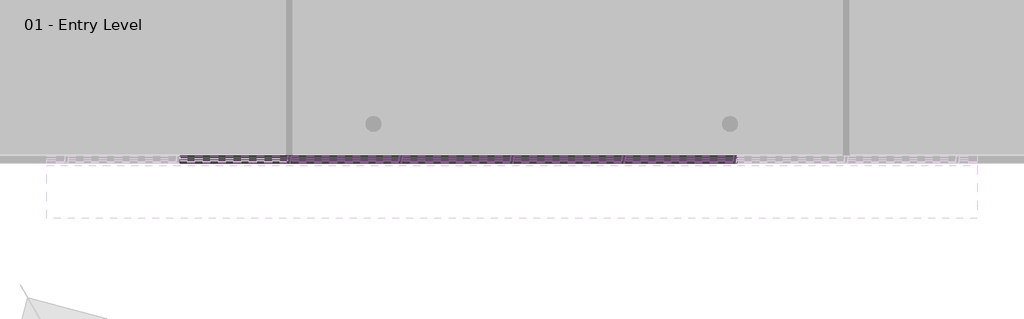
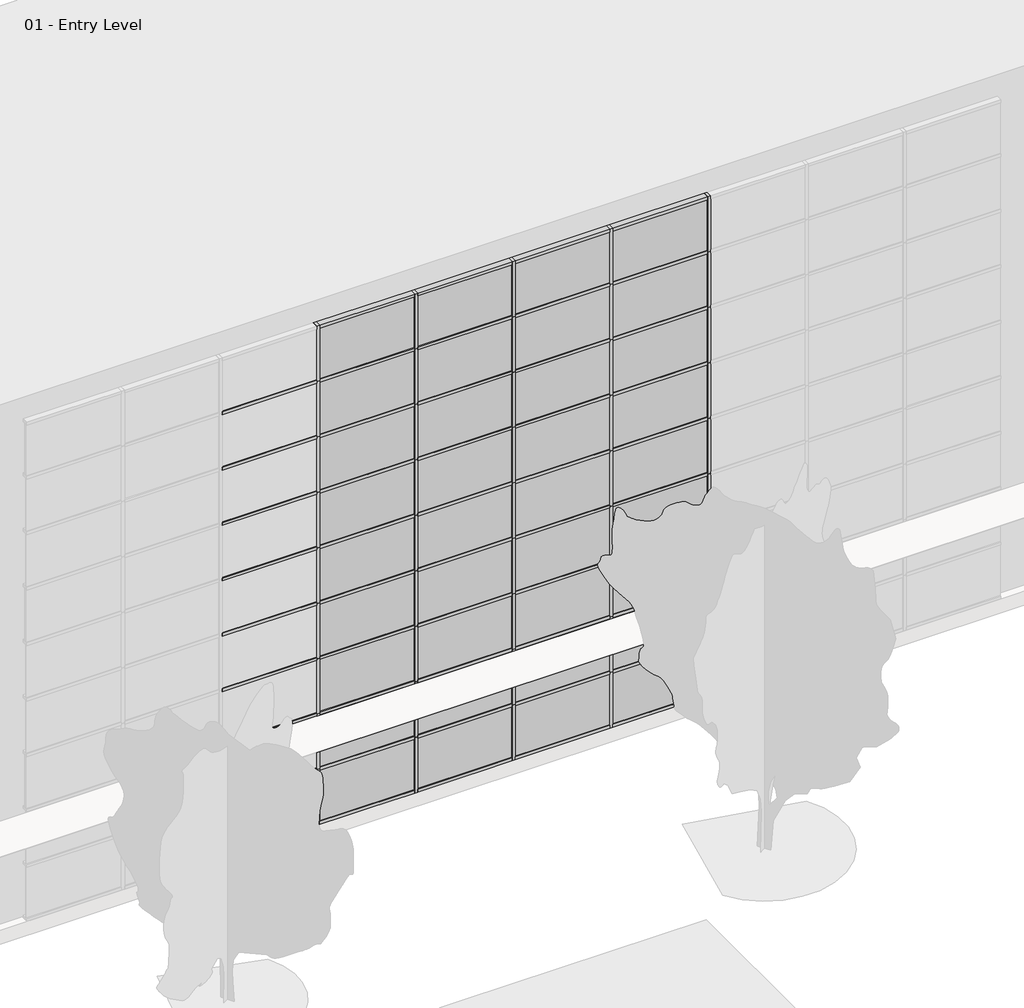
# One storey, part 4 of 34: 94 members, 38 plates.
"""IFC4 building model written with IfcOpenShell, lengths in millimetres."""

from ifc_helpers import new_model, si_unit, origin, place, context, project, spatial, transform, mapped, element, save
from components import member_2b49869a, member_391b434c, member_9e90ae50, system_panel_glazed_1b9d6098, system_panel_glazed_70da479d, system_panel_solid_b376696c, system_panel_solid_77e8b053

model = new_model("IFC4")

# Units and contexts
model_context = context("Model", 3, world=origin())
ifc_project = project(units=[si_unit("LENGTHUNIT", "METRE", prefix="MILLI")], contexts=[model_context])

# Site, building, storey
site = spatial("IfcSite", under=ifc_project)
building = spatial("IfcBuilding", under=site)
storey = spatial("IfcBuildingStorey", under=building, Name="01 - Entry Level", Elevation=0.0)

# Members
placement = place(None, origin())
member_shape = member_2b49869a(model_context)
element("IfcMember", 1, ObjectType="Rectangular Mullion : 2.5\" x 5\" rectangular", at=placement, inside=storey, context=model_context, shape_type="MappedRepresentation", body=[
    mapped(member_shape, transform((40755.2207476, -47.7, 9753.6), x_axis=(1.0, 0.0, 0.0), y_axis=(0.0, -1.0, 0.0), z_axis=(0.0, 0.0, -1.0))),
])
element("IfcMember", 2, ObjectType="Rectangular Mullion : 2.5\" x 5\" rectangular", at=placement, inside=storey, context=model_context, shape_type="MappedRepresentation", body=[
    mapped(member_shape, transform((42787.2207476, -47.7, 9753.6), x_axis=(1.0, 0.0, 0.0), y_axis=(0.0, -1.0, 0.0), z_axis=(0.0, 0.0, -1.0))),
])
element("IfcMember", 3, ObjectType="Rectangular Mullion : 2.5\" x 5\" rectangular", at=placement, inside=storey, context=model_context, shape_type="MappedRepresentation", body=[
    mapped(member_shape, transform((44819.2207476, -47.7, 9753.6), x_axis=(1.0, 0.0, 0.0), y_axis=(0.0, -1.0, 0.0), z_axis=(0.0, 0.0, -1.0))),
])
element("IfcMember", 4, ObjectType="Rectangular Mullion : 2.5\" x 5\" rectangular", at=placement, inside=storey, context=model_context, shape_type="MappedRepresentation", body=[
    mapped(member_shape, transform((46851.2207476, -47.7, 9753.6), x_axis=(1.0, 0.0, 0.0), y_axis=(0.0, -1.0, 0.0), z_axis=(0.0, 0.0, -1.0))),
])
element("IfcMember", 5, ObjectType="Rectangular Mullion : 2.5\" x 5\" rectangular", at=placement, inside=storey, context=model_context, shape_type="MappedRepresentation", body=[
    mapped(member_shape, transform((48883.2207476, -47.7, 9753.6), x_axis=(1.0, 0.0, 0.0), y_axis=(0.0, -1.0, 0.0), z_axis=(0.0, 0.0, -1.0))),
])
member_2_shape = member_391b434c(model_context)
element("IfcMember", 6, ObjectType="Rectangular Mullion : 2.5\" x 5\" rectangular", at=placement, inside=storey, context=model_context, shape_type="MappedRepresentation", body=[
    mapped(member_2_shape, transform((42755.4707476, -47.7, 10972.8), x_axis=(0.0, 0.0, 1.0), y_axis=(0.0, -1.0, 0.0), z_axis=(1.0, 0.0, 0.0))),
])
element("IfcMember", 7, ObjectType="Rectangular Mullion : 2.5\" x 5\" rectangular", at=placement, inside=storey, context=model_context, shape_type="MappedRepresentation", body=[
    mapped(member_2_shape, transform((44787.4707476, -47.7, 10972.8), x_axis=(0.0, 0.0, 1.0), y_axis=(0.0, -1.0, 0.0), z_axis=(1.0, 0.0, 0.0))),
])
element("IfcMember", 8, ObjectType="Rectangular Mullion : 2.5\" x 5\" rectangular", at=placement, inside=storey, context=model_context, shape_type="MappedRepresentation", body=[
    mapped(member_2_shape, transform((46819.4707476, -47.7, 10972.8), x_axis=(0.0, 0.0, 1.0), y_axis=(0.0, -1.0, 0.0), z_axis=(1.0, 0.0, 0.0))),
])
element("IfcMember", 9, ObjectType="Rectangular Mullion : 2.5\" x 5\" rectangular", at=placement, inside=storey, context=model_context, shape_type="MappedRepresentation", body=[
    mapped(member_2_shape, transform((48851.4707476, -47.7, 10972.8), x_axis=(0.0, 0.0, 1.0), y_axis=(0.0, -1.0, 0.0), z_axis=(1.0, 0.0, 0.0))),
])
element("IfcMember", 10, ObjectType="Rectangular Mullion : 2.5\" x 5\" rectangular", at=placement, inside=storey, context=model_context, shape_type="MappedRepresentation", body=[
    mapped(member_2_shape, transform((40786.9707476, -47.7, 0.0), x_axis=(0.0, 0.0, -1.0), y_axis=(0.0, -1.0, 0.0), z_axis=(-1.0, 0.0, 0.0))),
])
element("IfcMember", 11, ObjectType="Rectangular Mullion : 2.5\" x 5\" rectangular", at=placement, inside=storey, context=model_context, shape_type="MappedRepresentation", body=[
    mapped(member_2_shape, transform((42818.9707476, -47.7, 0.0), x_axis=(0.0, 0.0, -1.0), y_axis=(0.0, -1.0, 0.0), z_axis=(-1.0, 0.0, 0.0))),
])
element("IfcMember", 12, ObjectType="Rectangular Mullion : 2.5\" x 5\" rectangular", at=placement, inside=storey, context=model_context, shape_type="MappedRepresentation", body=[
    mapped(member_2_shape, transform((44850.9707476, -47.7, 0.0), x_axis=(0.0, 0.0, -1.0), y_axis=(0.0, -1.0, 0.0), z_axis=(-1.0, 0.0, 0.0))),
])
element("IfcMember", 13, ObjectType="Rectangular Mullion : 2.5\" x 5\" rectangular", at=placement, inside=storey, context=model_context, shape_type="MappedRepresentation", body=[
    mapped(member_2_shape, transform((46882.9707476, -47.7, 0.0), x_axis=(0.0, 0.0, -1.0), y_axis=(0.0, -1.0, 0.0), z_axis=(-1.0, 0.0, 0.0))),
])
element("IfcMember", 14, ObjectType="Rectangular Mullion : 2.5\" x 5\" rectangular", at=placement, inside=storey, context=model_context, shape_type="MappedRepresentation", body=[
    mapped(member_2_shape, transform((48914.9707476, -47.7, 0.0), x_axis=(0.0, 0.0, -1.0), y_axis=(0.0, -1.0, 0.0), z_axis=(-1.0, 0.0, 0.0))),
])
member_3_shape = member_9e90ae50(model_context)
element("IfcMember", 15, ObjectType="Rectangular Mullion : 2.5\" x 5\" rectangular", at=placement, inside=storey, context=model_context, shape_type="MappedRepresentation", body=[
    mapped(member_3_shape, transform((40723.4707476, -47.7, 1219.2), x_axis=(0.0, 0.0, 1.0), y_axis=(0.0, -1.0, 0.0), z_axis=(1.0, 0.0, 0.0))),
])
element("IfcMember", 16, ObjectType="Rectangular Mullion : 2.5\" x 5\" rectangular", at=placement, inside=storey, context=model_context, shape_type="MappedRepresentation", body=[
    mapped(member_3_shape, transform((42755.4707476, -47.7, 1219.2), x_axis=(0.0, 0.0, 1.0), y_axis=(0.0, -1.0, 0.0), z_axis=(1.0, 0.0, 0.0))),
])
element("IfcMember", 17, ObjectType="Rectangular Mullion : 2.5\" x 5\" rectangular", at=placement, inside=storey, context=model_context, shape_type="MappedRepresentation", body=[
    mapped(member_3_shape, transform((44787.4707476, -47.7, 1219.2), x_axis=(0.0, 0.0, 1.0), y_axis=(0.0, -1.0, 0.0), z_axis=(1.0, 0.0, 0.0))),
])
element("IfcMember", 18, ObjectType="Rectangular Mullion : 2.5\" x 5\" rectangular", at=placement, inside=storey, context=model_context, shape_type="MappedRepresentation", body=[
    mapped(member_3_shape, transform((46819.4707476, -47.7, 1219.2), x_axis=(0.0, 0.0, 1.0), y_axis=(0.0, -1.0, 0.0), z_axis=(1.0, 0.0, 0.0))),
])
element("IfcMember", 19, ObjectType="Rectangular Mullion : 2.5\" x 5\" rectangular", at=placement, inside=storey, context=model_context, shape_type="MappedRepresentation", body=[
    mapped(member_3_shape, transform((48851.4707476, -47.7, 1219.2), x_axis=(0.0, 0.0, 1.0), y_axis=(0.0, -1.0, 0.0), z_axis=(1.0, 0.0, 0.0))),
])
element("IfcMember", 20, ObjectType="Rectangular Mullion : 2.5\" x 5\" rectangular", at=placement, inside=storey, context=model_context, shape_type="MappedRepresentation", body=[
    mapped(member_3_shape, transform((40723.4707476, -47.7, 2438.4), x_axis=(0.0, 0.0, 1.0), y_axis=(0.0, -1.0, 0.0), z_axis=(1.0, 0.0, 0.0))),
])
element("IfcMember", 21, ObjectType="Rectangular Mullion : 2.5\" x 5\" rectangular", at=placement, inside=storey, context=model_context, shape_type="MappedRepresentation", body=[
    mapped(member_3_shape, transform((42755.4707476, -47.7, 2438.4), x_axis=(0.0, 0.0, 1.0), y_axis=(0.0, -1.0, 0.0), z_axis=(1.0, 0.0, 0.0))),
])
element("IfcMember", 22, ObjectType="Rectangular Mullion : 2.5\" x 5\" rectangular", at=placement, inside=storey, context=model_context, shape_type="MappedRepresentation", body=[
    mapped(member_3_shape, transform((44787.4707476, -47.7, 2438.4), x_axis=(0.0, 0.0, 1.0), y_axis=(0.0, -1.0, 0.0), z_axis=(1.0, 0.0, 0.0))),
])
element("IfcMember", 23, ObjectType="Rectangular Mullion : 2.5\" x 5\" rectangular", at=placement, inside=storey, context=model_context, shape_type="MappedRepresentation", body=[
    mapped(member_3_shape, transform((46819.4707476, -47.7, 2438.4), x_axis=(0.0, 0.0, 1.0), y_axis=(0.0, -1.0, 0.0), z_axis=(1.0, 0.0, 0.0))),
])
element("IfcMember", 24, ObjectType="Rectangular Mullion : 2.5\" x 5\" rectangular", at=placement, inside=storey, context=model_context, shape_type="MappedRepresentation", body=[
    mapped(member_3_shape, transform((48851.4707476, -47.7, 2438.4), x_axis=(0.0, 0.0, 1.0), y_axis=(0.0, -1.0, 0.0), z_axis=(1.0, 0.0, 0.0))),
])
element("IfcMember", 25, ObjectType="Rectangular Mullion : 2.5\" x 5\" rectangular", at=placement, inside=storey, context=model_context, shape_type="MappedRepresentation", body=[
    mapped(member_3_shape, transform((40723.4707476, -47.7, 3657.6), x_axis=(0.0, 0.0, 1.0), y_axis=(0.0, -1.0, 0.0), z_axis=(1.0, 0.0, 0.0))),
])
element("IfcMember", 26, ObjectType="Rectangular Mullion : 2.5\" x 5\" rectangular", at=placement, inside=storey, context=model_context, shape_type="MappedRepresentation", body=[
    mapped(member_3_shape, transform((42755.4707476, -47.7, 3657.6), x_axis=(0.0, 0.0, 1.0), y_axis=(0.0, -1.0, 0.0), z_axis=(1.0, 0.0, 0.0))),
])
element("IfcMember", 27, ObjectType="Rectangular Mullion : 2.5\" x 5\" rectangular", at=placement, inside=storey, context=model_context, shape_type="MappedRepresentation", body=[
    mapped(member_3_shape, transform((44787.4707476, -47.7, 3657.6), x_axis=(0.0, 0.0, 1.0), y_axis=(0.0, -1.0, 0.0), z_axis=(1.0, 0.0, 0.0))),
])
element("IfcMember", 28, ObjectType="Rectangular Mullion : 2.5\" x 5\" rectangular", at=placement, inside=storey, context=model_context, shape_type="MappedRepresentation", body=[
    mapped(member_3_shape, transform((46819.4707476, -47.7, 3657.6), x_axis=(0.0, 0.0, 1.0), y_axis=(0.0, -1.0, 0.0), z_axis=(1.0, 0.0, 0.0))),
])
element("IfcMember", 29, ObjectType="Rectangular Mullion : 2.5\" x 5\" rectangular", at=placement, inside=storey, context=model_context, shape_type="MappedRepresentation", body=[
    mapped(member_3_shape, transform((48851.4707476, -47.7, 3657.6), x_axis=(0.0, 0.0, 1.0), y_axis=(0.0, -1.0, 0.0), z_axis=(1.0, 0.0, 0.0))),
])
element("IfcMember", 30, ObjectType="Rectangular Mullion : 2.5\" x 5\" rectangular", at=placement, inside=storey, context=model_context, shape_type="MappedRepresentation", body=[
    mapped(member_3_shape, transform((40723.4707476, -47.7, 4876.8), x_axis=(0.0, 0.0, 1.0), y_axis=(0.0, -1.0, 0.0), z_axis=(1.0, 0.0, 0.0))),
])
element("IfcMember", 31, ObjectType="Rectangular Mullion : 2.5\" x 5\" rectangular", at=placement, inside=storey, context=model_context, shape_type="MappedRepresentation", body=[
    mapped(member_3_shape, transform((42755.4707476, -47.7, 4876.8), x_axis=(0.0, 0.0, 1.0), y_axis=(0.0, -1.0, 0.0), z_axis=(1.0, 0.0, 0.0))),
])
element("IfcMember", 32, ObjectType="Rectangular Mullion : 2.5\" x 5\" rectangular", at=placement, inside=storey, context=model_context, shape_type="MappedRepresentation", body=[
    mapped(member_3_shape, transform((44787.4707476, -47.7, 4876.8), x_axis=(0.0, 0.0, 1.0), y_axis=(0.0, -1.0, 0.0), z_axis=(1.0, 0.0, 0.0))),
])
element("IfcMember", 33, ObjectType="Rectangular Mullion : 2.5\" x 5\" rectangular", at=placement, inside=storey, context=model_context, shape_type="MappedRepresentation", body=[
    mapped(member_3_shape, transform((46819.4707476, -47.7, 4876.8), x_axis=(0.0, 0.0, 1.0), y_axis=(0.0, -1.0, 0.0), z_axis=(1.0, 0.0, 0.0))),
])
element("IfcMember", 34, ObjectType="Rectangular Mullion : 2.5\" x 5\" rectangular", at=placement, inside=storey, context=model_context, shape_type="MappedRepresentation", body=[
    mapped(member_3_shape, transform((48851.4707476, -47.7, 4876.8), x_axis=(0.0, 0.0, 1.0), y_axis=(0.0, -1.0, 0.0), z_axis=(1.0, 0.0, 0.0))),
])
element("IfcMember", 35, ObjectType="Rectangular Mullion : 2.5\" x 5\" rectangular", at=placement, inside=storey, context=model_context, shape_type="MappedRepresentation", body=[
    mapped(member_3_shape, transform((40723.4707476, -47.7, 6096.0), x_axis=(0.0, 0.0, 1.0), y_axis=(0.0, -1.0, 0.0), z_axis=(1.0, 0.0, 0.0))),
])
element("IfcMember", 36, ObjectType="Rectangular Mullion : 2.5\" x 5\" rectangular", at=placement, inside=storey, context=model_context, shape_type="MappedRepresentation", body=[
    mapped(member_3_shape, transform((42755.4707476, -47.7, 6096.0), x_axis=(0.0, 0.0, 1.0), y_axis=(0.0, -1.0, 0.0), z_axis=(1.0, 0.0, 0.0))),
])
element("IfcMember", 37, ObjectType="Rectangular Mullion : 2.5\" x 5\" rectangular", at=placement, inside=storey, context=model_context, shape_type="MappedRepresentation", body=[
    mapped(member_3_shape, transform((44787.4707476, -47.7, 6096.0), x_axis=(0.0, 0.0, 1.0), y_axis=(0.0, -1.0, 0.0), z_axis=(1.0, 0.0, 0.0))),
])
element("IfcMember", 38, ObjectType="Rectangular Mullion : 2.5\" x 5\" rectangular", at=placement, inside=storey, context=model_context, shape_type="MappedRepresentation", body=[
    mapped(member_3_shape, transform((46819.4707476, -47.7, 6096.0), x_axis=(0.0, 0.0, 1.0), y_axis=(0.0, -1.0, 0.0), z_axis=(1.0, 0.0, 0.0))),
])
element("IfcMember", 39, ObjectType="Rectangular Mullion : 2.5\" x 5\" rectangular", at=placement, inside=storey, context=model_context, shape_type="MappedRepresentation", body=[
    mapped(member_3_shape, transform((48851.4707476, -47.7, 6096.0), x_axis=(0.0, 0.0, 1.0), y_axis=(0.0, -1.0, 0.0), z_axis=(1.0, 0.0, 0.0))),
])
element("IfcMember", 40, ObjectType="Rectangular Mullion : 2.5\" x 5\" rectangular", at=placement, inside=storey, context=model_context, shape_type="MappedRepresentation", body=[
    mapped(member_3_shape, transform((40723.4707476, -47.7, 7315.2), x_axis=(0.0, 0.0, 1.0), y_axis=(0.0, -1.0, 0.0), z_axis=(1.0, 0.0, 0.0))),
])
element("IfcMember", 41, ObjectType="Rectangular Mullion : 2.5\" x 5\" rectangular", at=placement, inside=storey, context=model_context, shape_type="MappedRepresentation", body=[
    mapped(member_3_shape, transform((42755.4707476, -47.7, 7315.2), x_axis=(0.0, 0.0, 1.0), y_axis=(0.0, -1.0, 0.0), z_axis=(1.0, 0.0, 0.0))),
])
element("IfcMember", 42, ObjectType="Rectangular Mullion : 2.5\" x 5\" rectangular", at=placement, inside=storey, context=model_context, shape_type="MappedRepresentation", body=[
    mapped(member_3_shape, transform((44787.4707476, -47.7, 7315.2), x_axis=(0.0, 0.0, 1.0), y_axis=(0.0, -1.0, 0.0), z_axis=(1.0, 0.0, 0.0))),
])
element("IfcMember", 43, ObjectType="Rectangular Mullion : 2.5\" x 5\" rectangular", at=placement, inside=storey, context=model_context, shape_type="MappedRepresentation", body=[
    mapped(member_3_shape, transform((46819.4707476, -47.7, 7315.2), x_axis=(0.0, 0.0, 1.0), y_axis=(0.0, -1.0, 0.0), z_axis=(1.0, 0.0, 0.0))),
])
element("IfcMember", 44, ObjectType="Rectangular Mullion : 2.5\" x 5\" rectangular", at=placement, inside=storey, context=model_context, shape_type="MappedRepresentation", body=[
    mapped(member_3_shape, transform((48851.4707476, -47.7, 7315.2), x_axis=(0.0, 0.0, 1.0), y_axis=(0.0, -1.0, 0.0), z_axis=(1.0, 0.0, 0.0))),
])
element("IfcMember", 45, ObjectType="Rectangular Mullion : 2.5\" x 5\" rectangular", at=placement, inside=storey, context=model_context, shape_type="MappedRepresentation", body=[
    mapped(member_3_shape, transform((40723.4707476, -47.7, 8534.4), x_axis=(0.0, 0.0, 1.0), y_axis=(0.0, -1.0, 0.0), z_axis=(1.0, 0.0, 0.0))),
])
element("IfcMember", 46, ObjectType="Rectangular Mullion : 2.5\" x 5\" rectangular", at=placement, inside=storey, context=model_context, shape_type="MappedRepresentation", body=[
    mapped(member_3_shape, transform((42755.4707476, -47.7, 8534.4), x_axis=(0.0, 0.0, 1.0), y_axis=(0.0, -1.0, 0.0), z_axis=(1.0, 0.0, 0.0))),
])
element("IfcMember", 47, ObjectType="Rectangular Mullion : 2.5\" x 5\" rectangular", at=placement, inside=storey, context=model_context, shape_type="MappedRepresentation", body=[
    mapped(member_3_shape, transform((44787.4707476, -47.7, 8534.4), x_axis=(0.0, 0.0, 1.0), y_axis=(0.0, -1.0, 0.0), z_axis=(1.0, 0.0, 0.0))),
])
element("IfcMember", 48, ObjectType="Rectangular Mullion : 2.5\" x 5\" rectangular", at=placement, inside=storey, context=model_context, shape_type="MappedRepresentation", body=[
    mapped(member_3_shape, transform((46819.4707476, -47.7, 8534.4), x_axis=(0.0, 0.0, 1.0), y_axis=(0.0, -1.0, 0.0), z_axis=(1.0, 0.0, 0.0))),
])
element("IfcMember", 49, ObjectType="Rectangular Mullion : 2.5\" x 5\" rectangular", at=placement, inside=storey, context=model_context, shape_type="MappedRepresentation", body=[
    mapped(member_3_shape, transform((48851.4707476, -47.7, 8534.4), x_axis=(0.0, 0.0, 1.0), y_axis=(0.0, -1.0, 0.0), z_axis=(1.0, 0.0, 0.0))),
])
element("IfcMember", 50, ObjectType="Rectangular Mullion : 2.5\" x 5\" rectangular", at=placement, inside=storey, context=model_context, shape_type="MappedRepresentation", body=[
    mapped(member_3_shape, transform((40723.4707476, -47.7, 9753.6), x_axis=(0.0, 0.0, 1.0), y_axis=(0.0, -1.0, 0.0), z_axis=(1.0, 0.0, 0.0))),
])
element("IfcMember", 51, ObjectType="Rectangular Mullion : 2.5\" x 5\" rectangular", at=placement, inside=storey, context=model_context, shape_type="MappedRepresentation", body=[
    mapped(member_3_shape, transform((42755.4707476, -47.7, 9753.6), x_axis=(0.0, 0.0, 1.0), y_axis=(0.0, -1.0, 0.0), z_axis=(1.0, 0.0, 0.0))),
])
element("IfcMember", 52, ObjectType="Rectangular Mullion : 2.5\" x 5\" rectangular", at=placement, inside=storey, context=model_context, shape_type="MappedRepresentation", body=[
    mapped(member_3_shape, transform((44787.4707476, -47.7, 9753.6), x_axis=(0.0, 0.0, 1.0), y_axis=(0.0, -1.0, 0.0), z_axis=(1.0, 0.0, 0.0))),
])
element("IfcMember", 53, ObjectType="Rectangular Mullion : 2.5\" x 5\" rectangular", at=placement, inside=storey, context=model_context, shape_type="MappedRepresentation", body=[
    mapped(member_3_shape, transform((46819.4707476, -47.7, 9753.6), x_axis=(0.0, 0.0, 1.0), y_axis=(0.0, -1.0, 0.0), z_axis=(1.0, 0.0, 0.0))),
])
element("IfcMember", 54, ObjectType="Rectangular Mullion : 2.5\" x 5\" rectangular", at=placement, inside=storey, context=model_context, shape_type="MappedRepresentation", body=[
    mapped(member_3_shape, transform((48851.4707476, -47.7, 9753.6), x_axis=(0.0, 0.0, 1.0), y_axis=(0.0, -1.0, 0.0), z_axis=(1.0, 0.0, 0.0))),
])
element("IfcMember", 55, ObjectType="Rectangular Mullion : 2.5\" x 5\" rectangular", at=placement, inside=storey, context=model_context, shape_type="MappedRepresentation", body=[
    mapped(member_shape, transform((40755.2207476, -47.7, 0.0), x_axis=(1.0, 0.0, 0.0), y_axis=(0.0, -1.0, 0.0), z_axis=(0.0, 0.0, -1.0))),
])
element("IfcMember", 56, ObjectType="Rectangular Mullion : 2.5\" x 5\" rectangular", at=placement, inside=storey, context=model_context, shape_type="MappedRepresentation", body=[
    mapped(member_shape, transform((42787.2207476, -47.7, 0.0), x_axis=(1.0, 0.0, 0.0), y_axis=(0.0, -1.0, 0.0), z_axis=(0.0, 0.0, -1.0))),
])
element("IfcMember", 57, ObjectType="Rectangular Mullion : 2.5\" x 5\" rectangular", at=placement, inside=storey, context=model_context, shape_type="MappedRepresentation", body=[
    mapped(member_shape, transform((44819.2207476, -47.7, 0.0), x_axis=(1.0, 0.0, 0.0), y_axis=(0.0, -1.0, 0.0), z_axis=(0.0, 0.0, -1.0))),
])
element("IfcMember", 58, ObjectType="Rectangular Mullion : 2.5\" x 5\" rectangular", at=placement, inside=storey, context=model_context, shape_type="MappedRepresentation", body=[
    mapped(member_shape, transform((46851.2207476, -47.7, 0.0), x_axis=(1.0, 0.0, 0.0), y_axis=(0.0, -1.0, 0.0), z_axis=(0.0, 0.0, -1.0))),
])
element("IfcMember", 59, ObjectType="Rectangular Mullion : 2.5\" x 5\" rectangular", at=placement, inside=storey, context=model_context, shape_type="MappedRepresentation", body=[
    mapped(member_shape, transform((48883.2207476, -47.7, 0.0), x_axis=(1.0, 0.0, 0.0), y_axis=(0.0, -1.0, 0.0), z_axis=(0.0, 0.0, -1.0))),
])
element("IfcMember", 60, ObjectType="Rectangular Mullion : 2.5\" x 5\" rectangular", at=placement, inside=storey, context=model_context, shape_type="MappedRepresentation", body=[
    mapped(member_shape, transform((40755.2207476, -47.7, 1219.2), x_axis=(1.0, 0.0, 0.0), y_axis=(0.0, -1.0, 0.0), z_axis=(0.0, 0.0, -1.0))),
])
element("IfcMember", 61, ObjectType="Rectangular Mullion : 2.5\" x 5\" rectangular", at=placement, inside=storey, context=model_context, shape_type="MappedRepresentation", body=[
    mapped(member_shape, transform((42787.2207476, -47.7, 1219.2), x_axis=(1.0, 0.0, 0.0), y_axis=(0.0, -1.0, 0.0), z_axis=(0.0, 0.0, -1.0))),
])
element("IfcMember", 62, ObjectType="Rectangular Mullion : 2.5\" x 5\" rectangular", at=placement, inside=storey, context=model_context, shape_type="MappedRepresentation", body=[
    mapped(member_shape, transform((44819.2207476, -47.7, 1219.2), x_axis=(1.0, 0.0, 0.0), y_axis=(0.0, -1.0, 0.0), z_axis=(0.0, 0.0, -1.0))),
])
element("IfcMember", 63, ObjectType="Rectangular Mullion : 2.5\" x 5\" rectangular", at=placement, inside=storey, context=model_context, shape_type="MappedRepresentation", body=[
    mapped(member_shape, transform((46851.2207476, -47.7, 1219.2), x_axis=(1.0, 0.0, 0.0), y_axis=(0.0, -1.0, 0.0), z_axis=(0.0, 0.0, -1.0))),
])
element("IfcMember", 64, ObjectType="Rectangular Mullion : 2.5\" x 5\" rectangular", at=placement, inside=storey, context=model_context, shape_type="MappedRepresentation", body=[
    mapped(member_shape, transform((48883.2207476, -47.7, 1219.2), x_axis=(1.0, 0.0, 0.0), y_axis=(0.0, -1.0, 0.0), z_axis=(0.0, 0.0, -1.0))),
])
element("IfcMember", 65, ObjectType="Rectangular Mullion : 2.5\" x 5\" rectangular", at=placement, inside=storey, context=model_context, shape_type="MappedRepresentation", body=[
    mapped(member_shape, transform((40755.2207476, -47.7, 2438.4), x_axis=(1.0, 0.0, 0.0), y_axis=(0.0, -1.0, 0.0), z_axis=(0.0, 0.0, -1.0))),
])
element("IfcMember", 66, ObjectType="Rectangular Mullion : 2.5\" x 5\" rectangular", at=placement, inside=storey, context=model_context, shape_type="MappedRepresentation", body=[
    mapped(member_shape, transform((42787.2207476, -47.7, 2438.4), x_axis=(1.0, 0.0, 0.0), y_axis=(0.0, -1.0, 0.0), z_axis=(0.0, 0.0, -1.0))),
])
element("IfcMember", 67, ObjectType="Rectangular Mullion : 2.5\" x 5\" rectangular", at=placement, inside=storey, context=model_context, shape_type="MappedRepresentation", body=[
    mapped(member_shape, transform((44819.2207476, -47.7, 2438.4), x_axis=(1.0, 0.0, 0.0), y_axis=(0.0, -1.0, 0.0), z_axis=(0.0, 0.0, -1.0))),
])
element("IfcMember", 68, ObjectType="Rectangular Mullion : 2.5\" x 5\" rectangular", at=placement, inside=storey, context=model_context, shape_type="MappedRepresentation", body=[
    mapped(member_shape, transform((46851.2207476, -47.7, 2438.4), x_axis=(1.0, 0.0, 0.0), y_axis=(0.0, -1.0, 0.0), z_axis=(0.0, 0.0, -1.0))),
])
element("IfcMember", 69, ObjectType="Rectangular Mullion : 2.5\" x 5\" rectangular", at=placement, inside=storey, context=model_context, shape_type="MappedRepresentation", body=[
    mapped(member_shape, transform((48883.2207476, -47.7, 2438.4), x_axis=(1.0, 0.0, 0.0), y_axis=(0.0, -1.0, 0.0), z_axis=(0.0, 0.0, -1.0))),
])
element("IfcMember", 70, ObjectType="Rectangular Mullion : 2.5\" x 5\" rectangular", at=placement, inside=storey, context=model_context, shape_type="MappedRepresentation", body=[
    mapped(member_shape, transform((40755.2207476, -47.7, 3657.6), x_axis=(1.0, 0.0, 0.0), y_axis=(0.0, -1.0, 0.0), z_axis=(0.0, 0.0, -1.0))),
])
element("IfcMember", 71, ObjectType="Rectangular Mullion : 2.5\" x 5\" rectangular", at=placement, inside=storey, context=model_context, shape_type="MappedRepresentation", body=[
    mapped(member_shape, transform((42787.2207476, -47.7, 3657.6), x_axis=(1.0, 0.0, 0.0), y_axis=(0.0, -1.0, 0.0), z_axis=(0.0, 0.0, -1.0))),
])
element("IfcMember", 72, ObjectType="Rectangular Mullion : 2.5\" x 5\" rectangular", at=placement, inside=storey, context=model_context, shape_type="MappedRepresentation", body=[
    mapped(member_shape, transform((44819.2207476, -47.7, 3657.6), x_axis=(1.0, 0.0, 0.0), y_axis=(0.0, -1.0, 0.0), z_axis=(0.0, 0.0, -1.0))),
])
element("IfcMember", 73, ObjectType="Rectangular Mullion : 2.5\" x 5\" rectangular", at=placement, inside=storey, context=model_context, shape_type="MappedRepresentation", body=[
    mapped(member_shape, transform((46851.2207476, -47.7, 3657.6), x_axis=(1.0, 0.0, 0.0), y_axis=(0.0, -1.0, 0.0), z_axis=(0.0, 0.0, -1.0))),
])
element("IfcMember", 74, ObjectType="Rectangular Mullion : 2.5\" x 5\" rectangular", at=placement, inside=storey, context=model_context, shape_type="MappedRepresentation", body=[
    mapped(member_shape, transform((48883.2207476, -47.7, 3657.6), x_axis=(1.0, 0.0, 0.0), y_axis=(0.0, -1.0, 0.0), z_axis=(0.0, 0.0, -1.0))),
])
element("IfcMember", 75, ObjectType="Rectangular Mullion : 2.5\" x 5\" rectangular", at=placement, inside=storey, context=model_context, shape_type="MappedRepresentation", body=[
    mapped(member_shape, transform((40755.2207476, -47.7, 4876.8), x_axis=(1.0, 0.0, 0.0), y_axis=(0.0, -1.0, 0.0), z_axis=(0.0, 0.0, -1.0))),
])
element("IfcMember", 76, ObjectType="Rectangular Mullion : 2.5\" x 5\" rectangular", at=placement, inside=storey, context=model_context, shape_type="MappedRepresentation", body=[
    mapped(member_shape, transform((42787.2207476, -47.7, 4876.8), x_axis=(1.0, 0.0, 0.0), y_axis=(0.0, -1.0, 0.0), z_axis=(0.0, 0.0, -1.0))),
])
element("IfcMember", 77, ObjectType="Rectangular Mullion : 2.5\" x 5\" rectangular", at=placement, inside=storey, context=model_context, shape_type="MappedRepresentation", body=[
    mapped(member_shape, transform((44819.2207476, -47.7, 4876.8), x_axis=(1.0, 0.0, 0.0), y_axis=(0.0, -1.0, 0.0), z_axis=(0.0, 0.0, -1.0))),
])
element("IfcMember", 78, ObjectType="Rectangular Mullion : 2.5\" x 5\" rectangular", at=placement, inside=storey, context=model_context, shape_type="MappedRepresentation", body=[
    mapped(member_shape, transform((46851.2207476, -47.7, 4876.8), x_axis=(1.0, 0.0, 0.0), y_axis=(0.0, -1.0, 0.0), z_axis=(0.0, 0.0, -1.0))),
])
element("IfcMember", 79, ObjectType="Rectangular Mullion : 2.5\" x 5\" rectangular", at=placement, inside=storey, context=model_context, shape_type="MappedRepresentation", body=[
    mapped(member_shape, transform((48883.2207476, -47.7, 4876.8), x_axis=(1.0, 0.0, 0.0), y_axis=(0.0, -1.0, 0.0), z_axis=(0.0, 0.0, -1.0))),
])
element("IfcMember", 80, ObjectType="Rectangular Mullion : 2.5\" x 5\" rectangular", at=placement, inside=storey, context=model_context, shape_type="MappedRepresentation", body=[
    mapped(member_shape, transform((40755.2207476, -47.7, 6096.0), x_axis=(1.0, 0.0, 0.0), y_axis=(0.0, -1.0, 0.0), z_axis=(0.0, 0.0, -1.0))),
])
element("IfcMember", 81, ObjectType="Rectangular Mullion : 2.5\" x 5\" rectangular", at=placement, inside=storey, context=model_context, shape_type="MappedRepresentation", body=[
    mapped(member_shape, transform((42787.2207476, -47.7, 6096.0), x_axis=(1.0, 0.0, 0.0), y_axis=(0.0, -1.0, 0.0), z_axis=(0.0, 0.0, -1.0))),
])
element("IfcMember", 82, ObjectType="Rectangular Mullion : 2.5\" x 5\" rectangular", at=placement, inside=storey, context=model_context, shape_type="MappedRepresentation", body=[
    mapped(member_shape, transform((44819.2207476, -47.7, 6096.0), x_axis=(1.0, 0.0, 0.0), y_axis=(0.0, -1.0, 0.0), z_axis=(0.0, 0.0, -1.0))),
])
element("IfcMember", 83, ObjectType="Rectangular Mullion : 2.5\" x 5\" rectangular", at=placement, inside=storey, context=model_context, shape_type="MappedRepresentation", body=[
    mapped(member_shape, transform((46851.2207476, -47.7, 6096.0), x_axis=(1.0, 0.0, 0.0), y_axis=(0.0, -1.0, 0.0), z_axis=(0.0, 0.0, -1.0))),
])
element("IfcMember", 84, ObjectType="Rectangular Mullion : 2.5\" x 5\" rectangular", at=placement, inside=storey, context=model_context, shape_type="MappedRepresentation", body=[
    mapped(member_shape, transform((48883.2207476, -47.7, 6096.0), x_axis=(1.0, 0.0, 0.0), y_axis=(0.0, -1.0, 0.0), z_axis=(0.0, 0.0, -1.0))),
])
element("IfcMember", 85, ObjectType="Rectangular Mullion : 2.5\" x 5\" rectangular", at=placement, inside=storey, context=model_context, shape_type="MappedRepresentation", body=[
    mapped(member_shape, transform((40755.2207476, -47.7, 7315.2), x_axis=(1.0, 0.0, 0.0), y_axis=(0.0, -1.0, 0.0), z_axis=(0.0, 0.0, -1.0))),
])
element("IfcMember", 86, ObjectType="Rectangular Mullion : 2.5\" x 5\" rectangular", at=placement, inside=storey, context=model_context, shape_type="MappedRepresentation", body=[
    mapped(member_shape, transform((42787.2207476, -47.7, 7315.2), x_axis=(1.0, 0.0, 0.0), y_axis=(0.0, -1.0, 0.0), z_axis=(0.0, 0.0, -1.0))),
])
element("IfcMember", 87, ObjectType="Rectangular Mullion : 2.5\" x 5\" rectangular", at=placement, inside=storey, context=model_context, shape_type="MappedRepresentation", body=[
    mapped(member_shape, transform((44819.2207476, -47.7, 7315.2), x_axis=(1.0, 0.0, 0.0), y_axis=(0.0, -1.0, 0.0), z_axis=(0.0, 0.0, -1.0))),
])
element("IfcMember", 88, ObjectType="Rectangular Mullion : 2.5\" x 5\" rectangular", at=placement, inside=storey, context=model_context, shape_type="MappedRepresentation", body=[
    mapped(member_shape, transform((46851.2207476, -47.7, 7315.2), x_axis=(1.0, 0.0, 0.0), y_axis=(0.0, -1.0, 0.0), z_axis=(0.0, 0.0, -1.0))),
])
element("IfcMember", 89, ObjectType="Rectangular Mullion : 2.5\" x 5\" rectangular", at=placement, inside=storey, context=model_context, shape_type="MappedRepresentation", body=[
    mapped(member_shape, transform((48883.2207476, -47.7, 7315.2), x_axis=(1.0, 0.0, 0.0), y_axis=(0.0, -1.0, 0.0), z_axis=(0.0, 0.0, -1.0))),
])
element("IfcMember", 90, ObjectType="Rectangular Mullion : 2.5\" x 5\" rectangular", at=placement, inside=storey, context=model_context, shape_type="MappedRepresentation", body=[
    mapped(member_shape, transform((40755.2207476, -47.7, 8534.4), x_axis=(1.0, 0.0, 0.0), y_axis=(0.0, -1.0, 0.0), z_axis=(0.0, 0.0, -1.0))),
])
element("IfcMember", 91, ObjectType="Rectangular Mullion : 2.5\" x 5\" rectangular", at=placement, inside=storey, context=model_context, shape_type="MappedRepresentation", body=[
    mapped(member_shape, transform((42787.2207476, -47.7, 8534.4), x_axis=(1.0, 0.0, 0.0), y_axis=(0.0, -1.0, 0.0), z_axis=(0.0, 0.0, -1.0))),
])
element("IfcMember", 92, ObjectType="Rectangular Mullion : 2.5\" x 5\" rectangular", at=placement, inside=storey, context=model_context, shape_type="MappedRepresentation", body=[
    mapped(member_shape, transform((44819.2207476, -47.7, 8534.4), x_axis=(1.0, 0.0, 0.0), y_axis=(0.0, -1.0, 0.0), z_axis=(0.0, 0.0, -1.0))),
])
element("IfcMember", 93, ObjectType="Rectangular Mullion : 2.5\" x 5\" rectangular", at=placement, inside=storey, context=model_context, shape_type="MappedRepresentation", body=[
    mapped(member_shape, transform((46851.2207476, -47.7, 8534.4), x_axis=(1.0, 0.0, 0.0), y_axis=(0.0, -1.0, 0.0), z_axis=(0.0, 0.0, -1.0))),
])
element("IfcMember", 94, ObjectType="Rectangular Mullion : 2.5\" x 5\" rectangular", at=placement, inside=storey, context=model_context, shape_type="MappedRepresentation", body=[
    mapped(member_shape, transform((48883.2207476, -47.7, 8534.4), x_axis=(1.0, 0.0, 0.0), y_axis=(0.0, -1.0, 0.0), z_axis=(0.0, 0.0, -1.0))),
])

# Plates
system_panel_glazed_shape = system_panel_glazed_1b9d6098(model_context)
element("IfcPlate", 95, ObjectType="System Panel : Glazed", at=placement, inside=storey, context=model_context, shape_type="MappedRepresentation", body=[
    mapped(system_panel_glazed_shape, transform((41771.2207476, -47.7, 63.5), x_axis=(1.0, 0.0, 0.0), y_axis=(0.0, 1.0, 0.0), z_axis=(0.0, 0.0, 1.0))),
])
element("IfcPlate", 96, ObjectType="System Panel : Glazed", at=placement, inside=storey, context=model_context, shape_type="MappedRepresentation", body=[
    mapped(system_panel_glazed_shape, transform((43803.2207476, -47.7, 63.5), x_axis=(1.0, 0.0, 0.0), y_axis=(0.0, 1.0, 0.0), z_axis=(0.0, 0.0, 1.0))),
])
element("IfcPlate", 97, ObjectType="System Panel : Glazed", at=placement, inside=storey, context=model_context, shape_type="MappedRepresentation", body=[
    mapped(system_panel_glazed_shape, transform((45835.2207476, -47.7, 63.5), x_axis=(1.0, 0.0, 0.0), y_axis=(0.0, 1.0, 0.0), z_axis=(0.0, 0.0, 1.0))),
])
element("IfcPlate", 98, ObjectType="System Panel : Glazed", at=placement, inside=storey, context=model_context, shape_type="MappedRepresentation", body=[
    mapped(system_panel_glazed_shape, transform((47867.2207476, -47.7, 63.5), x_axis=(1.0, 0.0, 0.0), y_axis=(0.0, 1.0, 0.0), z_axis=(0.0, 0.0, 1.0))),
])
element("IfcPlate", 99, ObjectType="System Panel : Glazed", at=placement, inside=storey, context=model_context, shape_type="MappedRepresentation", body=[
    mapped(system_panel_glazed_shape, transform((49899.2207476, -47.7, 63.5), x_axis=(1.0, 0.0, 0.0), y_axis=(0.0, 1.0, 0.0), z_axis=(0.0, 0.0, 1.0))),
])
system_panel_glazed_2_shape = system_panel_glazed_70da479d(model_context)
element("IfcPlate", 100, ObjectType="System Panel : Glazed", at=placement, inside=storey, context=model_context, shape_type="MappedRepresentation", body=[
    mapped(system_panel_glazed_2_shape, transform((41771.2207476, -47.7, 1250.95), x_axis=(1.0, 0.0, 0.0), y_axis=(0.0, 1.0, 0.0), z_axis=(0.0, 0.0, 1.0))),
])
element("IfcPlate", 101, ObjectType="System Panel : Glazed", at=placement, inside=storey, context=model_context, shape_type="MappedRepresentation", body=[
    mapped(system_panel_glazed_2_shape, transform((43803.2207476, -47.7, 1250.95), x_axis=(1.0, 0.0, 0.0), y_axis=(0.0, 1.0, 0.0), z_axis=(0.0, 0.0, 1.0))),
])
element("IfcPlate", 102, ObjectType="System Panel : Glazed", at=placement, inside=storey, context=model_context, shape_type="MappedRepresentation", body=[
    mapped(system_panel_glazed_2_shape, transform((45835.2207476, -47.7, 1250.95), x_axis=(1.0, 0.0, 0.0), y_axis=(0.0, 1.0, 0.0), z_axis=(0.0, 0.0, 1.0))),
])
element("IfcPlate", 103, ObjectType="System Panel : Glazed", at=placement, inside=storey, context=model_context, shape_type="MappedRepresentation", body=[
    mapped(system_panel_glazed_2_shape, transform((47867.2207476, -47.7, 1250.95), x_axis=(1.0, 0.0, 0.0), y_axis=(0.0, 1.0, 0.0), z_axis=(0.0, 0.0, 1.0))),
])
element("IfcPlate", 104, ObjectType="System Panel : Glazed", at=placement, inside=storey, context=model_context, shape_type="MappedRepresentation", body=[
    mapped(system_panel_glazed_2_shape, transform((49899.2207476, -47.7, 1250.95), x_axis=(1.0, 0.0, 0.0), y_axis=(0.0, 1.0, 0.0), z_axis=(0.0, 0.0, 1.0))),
])
element("IfcPlate", 105, ObjectType="System Panel : Glazed", at=placement, inside=storey, context=model_context, shape_type="MappedRepresentation", body=[
    mapped(system_panel_glazed_2_shape, transform((41771.2207476, -47.7, 3689.35), x_axis=(1.0, 0.0, 0.0), y_axis=(0.0, 1.0, 0.0), z_axis=(0.0, 0.0, 1.0))),
])
element("IfcPlate", 106, ObjectType="System Panel : Glazed", at=placement, inside=storey, context=model_context, shape_type="MappedRepresentation", body=[
    mapped(system_panel_glazed_2_shape, transform((43803.2207476, -47.7, 3689.35), x_axis=(1.0, 0.0, 0.0), y_axis=(0.0, 1.0, 0.0), z_axis=(0.0, 0.0, 1.0))),
])
element("IfcPlate", 107, ObjectType="System Panel : Glazed", at=placement, inside=storey, context=model_context, shape_type="MappedRepresentation", body=[
    mapped(system_panel_glazed_2_shape, transform((45835.2207476, -47.7, 3689.35), x_axis=(1.0, 0.0, 0.0), y_axis=(0.0, 1.0, 0.0), z_axis=(0.0, 0.0, 1.0))),
])
element("IfcPlate", 108, ObjectType="System Panel : Glazed", at=placement, inside=storey, context=model_context, shape_type="MappedRepresentation", body=[
    mapped(system_panel_glazed_2_shape, transform((47867.2207476, -47.7, 3689.35), x_axis=(1.0, 0.0, 0.0), y_axis=(0.0, 1.0, 0.0), z_axis=(0.0, 0.0, 1.0))),
])
element("IfcPlate", 109, ObjectType="System Panel : Glazed", at=placement, inside=storey, context=model_context, shape_type="MappedRepresentation", body=[
    mapped(system_panel_glazed_2_shape, transform((41771.2207476, -47.7, 4908.55), x_axis=(1.0, 0.0, 0.0), y_axis=(0.0, 1.0, 0.0), z_axis=(0.0, 0.0, 1.0))),
])
element("IfcPlate", 110, ObjectType="System Panel : Glazed", at=placement, inside=storey, context=model_context, shape_type="MappedRepresentation", body=[
    mapped(system_panel_glazed_2_shape, transform((43803.2207476, -47.7, 4908.55), x_axis=(1.0, 0.0, 0.0), y_axis=(0.0, 1.0, 0.0), z_axis=(0.0, 0.0, 1.0))),
])
element("IfcPlate", 111, ObjectType="System Panel : Glazed", at=placement, inside=storey, context=model_context, shape_type="MappedRepresentation", body=[
    mapped(system_panel_glazed_2_shape, transform((45835.2207476, -47.7, 4908.55), x_axis=(1.0, 0.0, 0.0), y_axis=(0.0, 1.0, 0.0), z_axis=(0.0, 0.0, 1.0))),
])
element("IfcPlate", 112, ObjectType="System Panel : Glazed", at=placement, inside=storey, context=model_context, shape_type="MappedRepresentation", body=[
    mapped(system_panel_glazed_2_shape, transform((47867.2207476, -47.7, 4908.55), x_axis=(1.0, 0.0, 0.0), y_axis=(0.0, 1.0, 0.0), z_axis=(0.0, 0.0, 1.0))),
])
element("IfcPlate", 113, ObjectType="System Panel : Glazed", at=placement, inside=storey, context=model_context, shape_type="MappedRepresentation", body=[
    mapped(system_panel_glazed_2_shape, transform((41771.2207476, -47.7, 7346.95), x_axis=(1.0, 0.0, 0.0), y_axis=(0.0, 1.0, 0.0), z_axis=(0.0, 0.0, 1.0))),
])
element("IfcPlate", 114, ObjectType="System Panel : Glazed", at=placement, inside=storey, context=model_context, shape_type="MappedRepresentation", body=[
    mapped(system_panel_glazed_2_shape, transform((43803.2207476, -47.7, 7346.95), x_axis=(1.0, 0.0, 0.0), y_axis=(0.0, 1.0, 0.0), z_axis=(0.0, 0.0, 1.0))),
])
element("IfcPlate", 115, ObjectType="System Panel : Glazed", at=placement, inside=storey, context=model_context, shape_type="MappedRepresentation", body=[
    mapped(system_panel_glazed_2_shape, transform((45835.2207476, -47.7, 7346.95), x_axis=(1.0, 0.0, 0.0), y_axis=(0.0, 1.0, 0.0), z_axis=(0.0, 0.0, 1.0))),
])
element("IfcPlate", 116, ObjectType="System Panel : Glazed", at=placement, inside=storey, context=model_context, shape_type="MappedRepresentation", body=[
    mapped(system_panel_glazed_2_shape, transform((47867.2207476, -47.7, 7346.95), x_axis=(1.0, 0.0, 0.0), y_axis=(0.0, 1.0, 0.0), z_axis=(0.0, 0.0, 1.0))),
])
element("IfcPlate", 117, ObjectType="System Panel : Glazed", at=placement, inside=storey, context=model_context, shape_type="MappedRepresentation", body=[
    mapped(system_panel_glazed_2_shape, transform((41771.2207476, -47.7, 8566.15), x_axis=(1.0, 0.0, 0.0), y_axis=(0.0, 1.0, 0.0), z_axis=(0.0, 0.0, 1.0))),
])
element("IfcPlate", 118, ObjectType="System Panel : Glazed", at=placement, inside=storey, context=model_context, shape_type="MappedRepresentation", body=[
    mapped(system_panel_glazed_2_shape, transform((43803.2207476, -47.7, 8566.15), x_axis=(1.0, 0.0, 0.0), y_axis=(0.0, 1.0, 0.0), z_axis=(0.0, 0.0, 1.0))),
])
element("IfcPlate", 119, ObjectType="System Panel : Glazed", at=placement, inside=storey, context=model_context, shape_type="MappedRepresentation", body=[
    mapped(system_panel_glazed_2_shape, transform((45835.2207476, -47.7, 8566.15), x_axis=(1.0, 0.0, 0.0), y_axis=(0.0, 1.0, 0.0), z_axis=(0.0, 0.0, 1.0))),
])
element("IfcPlate", 120, ObjectType="System Panel : Glazed", at=placement, inside=storey, context=model_context, shape_type="MappedRepresentation", body=[
    mapped(system_panel_glazed_2_shape, transform((47867.2207476, -47.7, 8566.15), x_axis=(1.0, 0.0, 0.0), y_axis=(0.0, 1.0, 0.0), z_axis=(0.0, 0.0, 1.0))),
])
system_panel_solid_shape = system_panel_solid_b376696c(model_context)
element("IfcPlate", 121, ObjectType="System Panel : Solid", at=placement, inside=storey, context=model_context, shape_type="MappedRepresentation", body=[
    mapped(system_panel_solid_shape, transform((41771.2207476, -47.7, 9785.35), x_axis=(1.0, 0.0, 0.0), y_axis=(0.0, 1.0, 0.0), z_axis=(0.0, 0.0, 1.0))),
])
element("IfcPlate", 122, ObjectType="System Panel : Solid", at=placement, inside=storey, context=model_context, shape_type="MappedRepresentation", body=[
    mapped(system_panel_solid_shape, transform((43803.2207476, -47.7, 9785.35), x_axis=(1.0, 0.0, 0.0), y_axis=(0.0, 1.0, 0.0), z_axis=(0.0, 0.0, 1.0))),
])
element("IfcPlate", 123, ObjectType="System Panel : Solid", at=placement, inside=storey, context=model_context, shape_type="MappedRepresentation", body=[
    mapped(system_panel_solid_shape, transform((45835.2207476, -47.7, 9785.35), x_axis=(1.0, 0.0, 0.0), y_axis=(0.0, 1.0, 0.0), z_axis=(0.0, 0.0, 1.0))),
])
element("IfcPlate", 124, ObjectType="System Panel : Solid", at=placement, inside=storey, context=model_context, shape_type="MappedRepresentation", body=[
    mapped(system_panel_solid_shape, transform((47867.2207476, -47.7, 9785.35), x_axis=(1.0, 0.0, 0.0), y_axis=(0.0, 1.0, 0.0), z_axis=(0.0, 0.0, 1.0))),
])
system_panel_solid_2_shape = system_panel_solid_77e8b053(model_context)
element("IfcPlate", 125, ObjectType="System Panel : Solid", at=placement, inside=storey, context=model_context, shape_type="MappedRepresentation", body=[
    mapped(system_panel_solid_2_shape, transform((41771.2207476, -47.7, 2470.15), x_axis=(1.0, 0.0, 0.0), y_axis=(0.0, 1.0, 0.0), z_axis=(0.0, 0.0, 1.0))),
])
element("IfcPlate", 126, ObjectType="System Panel : Solid", at=placement, inside=storey, context=model_context, shape_type="MappedRepresentation", body=[
    mapped(system_panel_solid_2_shape, transform((43803.2207476, -47.7, 2470.15), x_axis=(1.0, 0.0, 0.0), y_axis=(0.0, 1.0, 0.0), z_axis=(0.0, 0.0, 1.0))),
])
element("IfcPlate", 127, ObjectType="System Panel : Solid", at=placement, inside=storey, context=model_context, shape_type="MappedRepresentation", body=[
    mapped(system_panel_solid_2_shape, transform((45835.2207476, -47.7, 2470.15), x_axis=(1.0, 0.0, 0.0), y_axis=(0.0, 1.0, 0.0), z_axis=(0.0, 0.0, 1.0))),
])
element("IfcPlate", 128, ObjectType="System Panel : Solid", at=placement, inside=storey, context=model_context, shape_type="MappedRepresentation", body=[
    mapped(system_panel_solid_2_shape, transform((47867.2207476, -47.7, 2470.15), x_axis=(1.0, 0.0, 0.0), y_axis=(0.0, 1.0, 0.0), z_axis=(0.0, 0.0, 1.0))),
])
element("IfcPlate", 129, ObjectType="System Panel : Solid", at=placement, inside=storey, context=model_context, shape_type="MappedRepresentation", body=[
    mapped(system_panel_solid_2_shape, transform((41771.2207476, -47.7, 6127.75), x_axis=(1.0, 0.0, 0.0), y_axis=(0.0, 1.0, 0.0), z_axis=(0.0, 0.0, 1.0))),
])
element("IfcPlate", 130, ObjectType="System Panel : Solid", at=placement, inside=storey, context=model_context, shape_type="MappedRepresentation", body=[
    mapped(system_panel_solid_2_shape, transform((43803.2207476, -47.7, 6127.75), x_axis=(1.0, 0.0, 0.0), y_axis=(0.0, 1.0, 0.0), z_axis=(0.0, 0.0, 1.0))),
])
element("IfcPlate", 131, ObjectType="System Panel : Solid", at=placement, inside=storey, context=model_context, shape_type="MappedRepresentation", body=[
    mapped(system_panel_solid_2_shape, transform((45835.2207476, -47.7, 6127.75), x_axis=(1.0, 0.0, 0.0), y_axis=(0.0, 1.0, 0.0), z_axis=(0.0, 0.0, 1.0))),
])
element("IfcPlate", 132, ObjectType="System Panel : Solid", at=placement, inside=storey, context=model_context, shape_type="MappedRepresentation", body=[
    mapped(system_panel_solid_2_shape, transform((47867.2207476, -47.7, 6127.75), x_axis=(1.0, 0.0, 0.0), y_axis=(0.0, 1.0, 0.0), z_axis=(0.0, 0.0, 1.0))),
])

save(model, "model.ifc")
